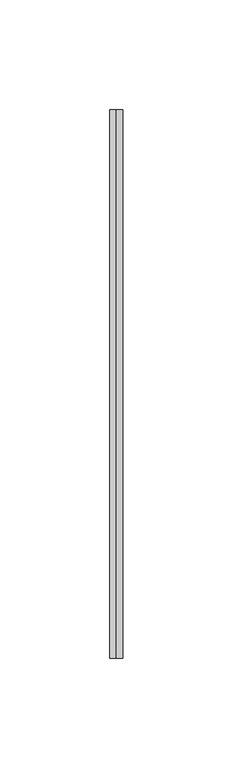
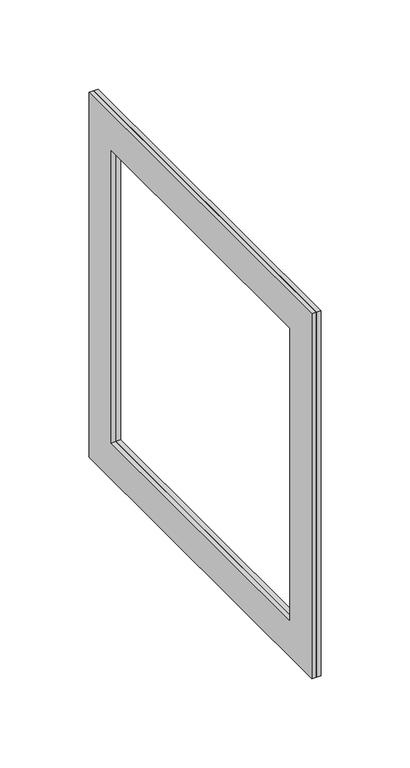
"""IFC4 building model written with IfcOpenShell, lengths in millimetres: duct fitting geometry, BL_ФланецВоздуховдов-Двойной_Прямоугольный : BL_ФланецВоздуховдов-Двойной_Прямоугольный."""

from ifc_helpers import new_model, si_unit, frame, origin, place, context, project, spatial, polyline, outline, extrude, source, transform, mapped, element, save


def duct_fitting_49a873c3(model_context):
    return source(origin(), model_context, "Body", "SweptSolid", [
        extrude(outline(polyline([(-170.6742229, 125.0), (79.3257771, 125.0), (79.3257771, -125.0), (-170.6742229, -125.0), (-170.6742229, 125.0)]), holes=[polyline([(-145.6742229, 100.0), (-145.6742229, -100.0), (54.3257771, -100.0), (54.3257771, 100.0), (-145.6742229, 100.0)])]), frame((0.0, 0.0, 0.0), z_axis=(1.0, 0.0, 0.0), x_axis=(0.0, 1.0, 0.0)), (0.0, 0.0, 1.0), 3.0),
        extrude(outline(polyline([(-170.6742229, 125.0), (79.3257771, 125.0), (79.3257771, -125.0), (-170.6742229, -125.0), (-170.6742229, 125.0)]), holes=[polyline([(54.3257771, 100.0), (-145.6742229, 100.0), (-145.6742229, -100.0), (54.3257771, -100.0), (54.3257771, 100.0)])]), frame((-3.0, 0.0, 0.0), z_axis=(1.0, 0.0, 0.0), x_axis=(0.0, 1.0, 0.0)), (0.0, 0.0, 1.0), 3.0),
    ])


if __name__ == "__main__":
    model = new_model("IFC4")
    model_context = context("Model", 3, world=origin())
    ifc_project = project(units=[si_unit("LENGTHUNIT", "METRE", prefix="MILLI")], contexts=[model_context])
    site = spatial("IfcSite", under=ifc_project)
    building = spatial("IfcBuilding", under=site)
    placement = place(None, origin())
    duct_fitting_shape = duct_fitting_49a873c3(model_context)
    element("IfcDuctFitting", 1, ObjectType="BL_ФланецВоздуховдов-Двойной_Прямоугольный : BL_ФланецВоздуховдов-Двойной_Прямоугольный", at=placement, inside=building, context=model_context, shape_type="MappedRepresentation", body=[
        mapped(duct_fitting_shape, transform((0.0, 0.0, 0.0), x_axis=(1.0, 0.0, 0.0), y_axis=(0.0, 1.0, 0.0), z_axis=(0.0, 0.0, 1.0))),
    ])
    save(model, "model.ifc")
